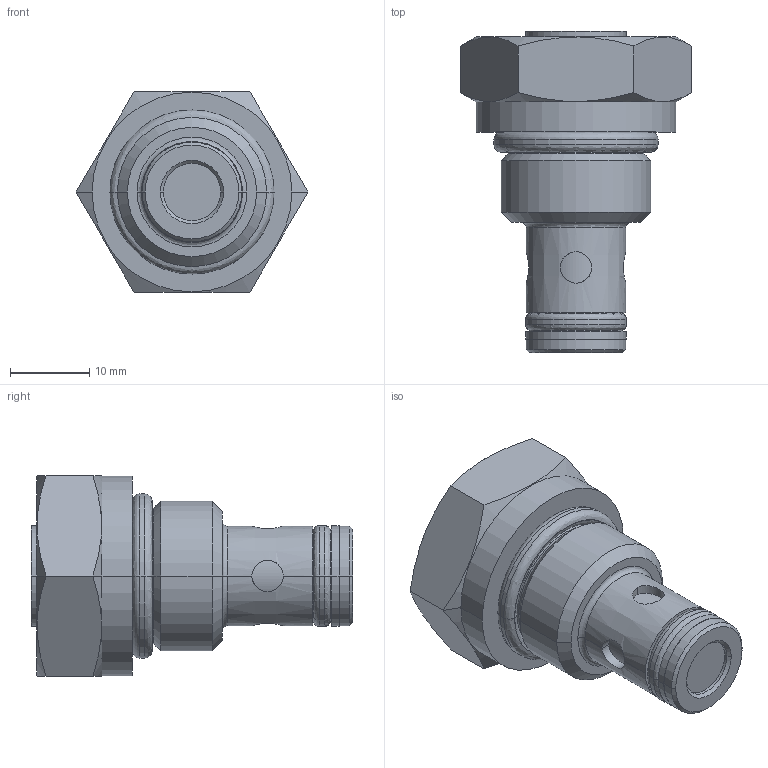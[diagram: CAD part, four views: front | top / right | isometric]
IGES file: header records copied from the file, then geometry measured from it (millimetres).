
Start section:  PTC IGES file: CVFB-08-_-_.igs
Global section: file name: CVFB-08-_-_.igs; native system: Creo Elements/Pro by Parametric Technology Corporation; preprocessor: 2015070; author: torrese; organization: Unknown; date: 20150904.151247; units: inch
Bounding box: 29.33 x 40.72 x 25.4 mm (x, y, z)
Volume: 11747.6 mm3; surface area: 3919.1 mm2
Topology: 1 solids, 1 shells, 95 faces, 198 edges, 118 vertices
Faces by surface type: revolution 70, bspline 25
